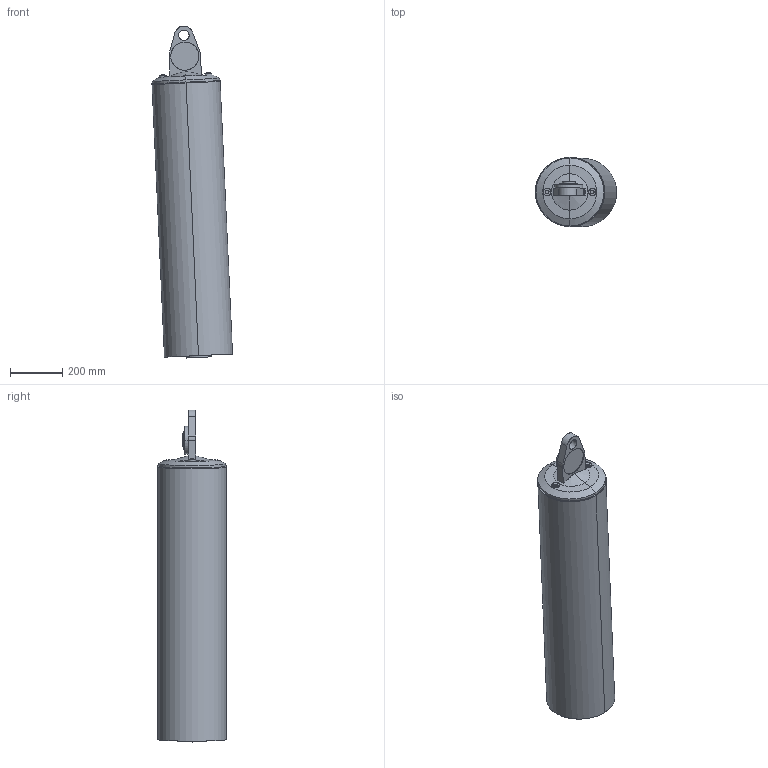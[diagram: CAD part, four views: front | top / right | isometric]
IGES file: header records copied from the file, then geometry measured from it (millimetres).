
Start section: SolidWorks IGES file using analytic representation for surfaces
Global section: file name: B:\DM\Robotics\SEROP_PROJ\Product Development\DevelopmentProjects\HD\3_Design PRMD\4_Struktur SAP o CAD\Lättmodeller\IRB8700-MH3_800-350\IRB8700-MH3_800-350_IRC5_IGES_j\IRB8700-MH3_800-350_IRC5_rev00_BAL-A-LEFT_CAD.IGS; native system: SolidWorks 2014; preprocessor: SolidWorks 2014; author: sepehak; date: 150604.102144; units: millimetre
Bounding box: 309.37 x 264 x 1267.17 mm (x, y, z)
Surface area: 1223408.4 mm2 (no closed solid volume)
Topology: 0 solids, 0 shells, 57 faces, 1744 edges, 1744 vertices
Faces by surface type: revolution 39, bspline 18
